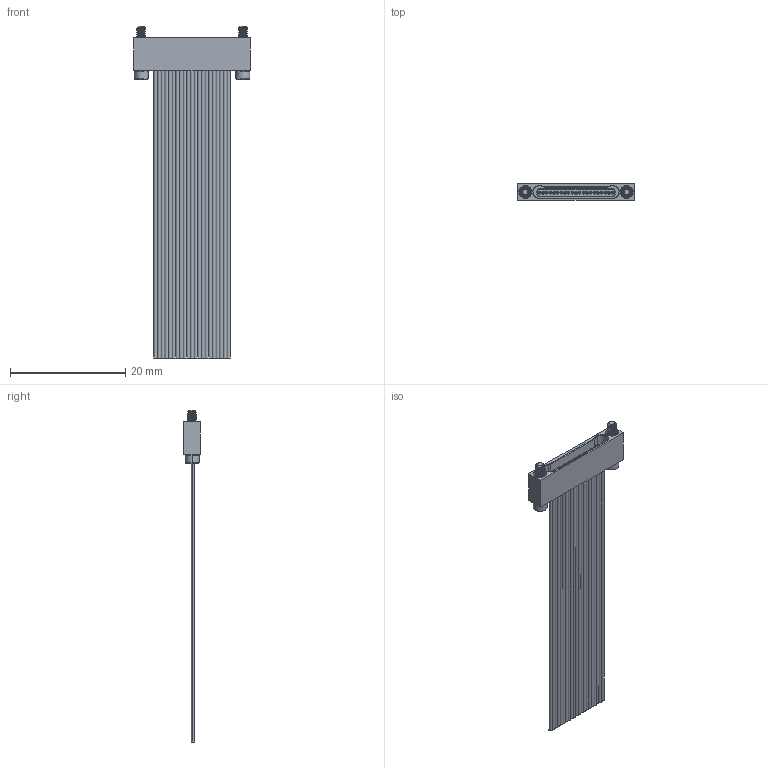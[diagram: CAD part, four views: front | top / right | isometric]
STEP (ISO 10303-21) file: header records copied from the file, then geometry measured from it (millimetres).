
FILE_DESCRIPTION (( 'STEP AP214' ), '1' );
FILE_NAME ('A55000-121 REV C.STEP', '2019-11-21T13:50:19', ( '' ), ( '' ), 'SwSTEP 2.0', 'SolidWorks 2019', '' );
FILE_SCHEMA (( 'AUTOMOTIVE_DESIGN' ));
Length unit declared in the file: inch
Products named in the file (1): A55000-121 REV C
Bounding box: 20.32 x 2.93 x 57.7 mm (x, y, z)
Volume: 576.3 mm3; surface area: 2946.3 mm2
Topology: 1 solids, 22 shells, 849 faces, 1894 edges, 1206 vertices
Faces by surface type: cylinder 366, plane 292, torus 100, bspline 54, cone 37
Entity records: 29038 total; most frequent: CARTESIAN_POINT 9842, DIRECTION 4180, ORIENTED_EDGE 3788, EDGE_CURVE 1894, AXIS2_PLACEMENT_3D 1678, VERTEX_POINT 1206, EDGE_LOOP 1008, CIRCLE 882
